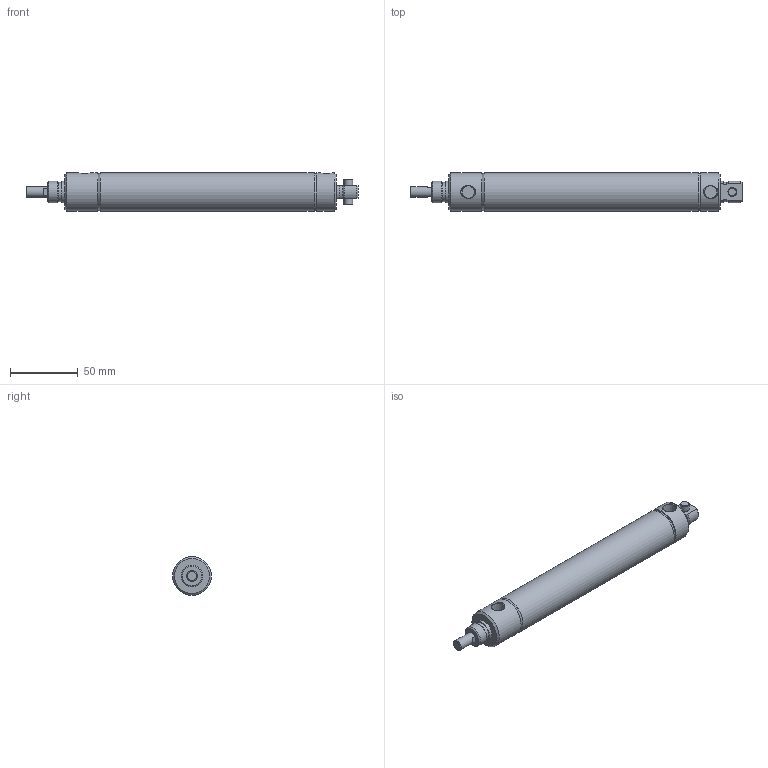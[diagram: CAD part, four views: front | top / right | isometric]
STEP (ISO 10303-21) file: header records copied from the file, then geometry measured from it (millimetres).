
FILE_DESCRIPTION( ( 'STEP AP214' ), '1' );
FILE_NAME( 'p:/temp/worker_444/temp/exporttempdir_5668_28_GWw05/format_0/1062D02-05A.stp', '2020-05-07T16:38:43', ( 'License CC BY-ND 4.0' ), ( 'CADENAS' ), ' ', 'PARTsolutions', ' ' );
FILE_SCHEMA( ( 'AUTOMOTIVE_DESIGN { 1 0 10303 214 1 1 1 1 }' ) );
Length unit declared in the file: inch
Products named in the file (3): 1062D02-05A; _1062D02-05A-001062D02-05A-0000A00A0b; _1062D02-05A-001062D02-05A-0000A00A0r
Assembly tree (2 placements, depth 2):
  1062D02-05A
    _1062D02-05A-001062D02-05A-0000A00A0b
    _1062D02-05A-001062D02-05A-0000A00A0r
Bounding box: 244.47 x 28.57 x 28.57 mm (x, y, z)
Volume: 64478.2 mm3; surface area: 45010.2 mm2
Topology: 2 solids, 2 shells, 65 faces, 129 edges, 83 vertices
Faces by surface type: plane 27, cone 19, cylinder 19
Full cylindrical faces by diameter (mm): 6.35 x2, 7.95 x3, 14.196 x1, 15.85 x1, 15.875 x1, 26.987 x2, 28.397 x1, 28.575 x2
Entity records: 2276 total; most frequent: CARTESIAN_POINT 442, DIRECTION 280, ORIENTED_EDGE 204, AXIS2_PLACEMENT_3D 126, EDGE_LOOP 104, EDGE_CURVE 102, VERTEX_POINT 80, FACE_OUTER_BOUND 78
